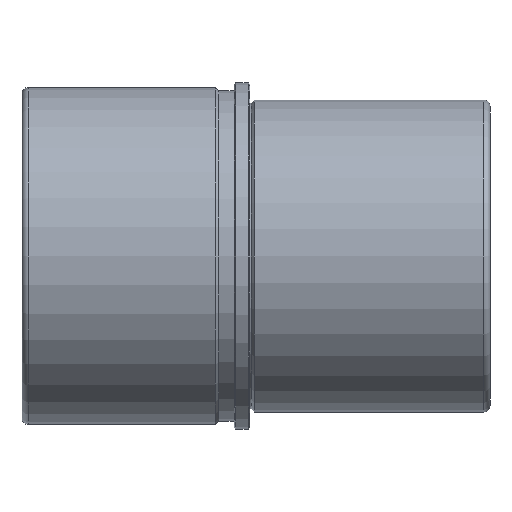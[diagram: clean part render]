
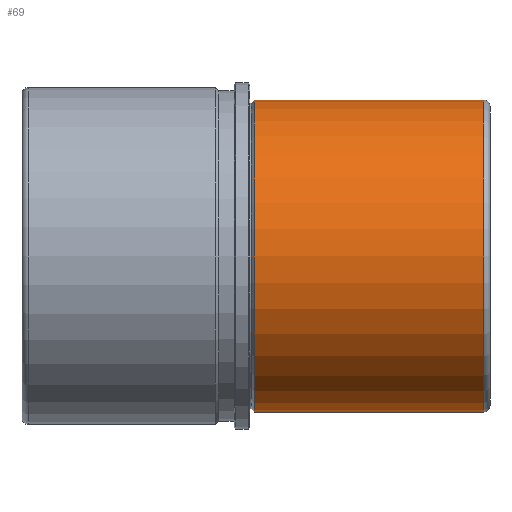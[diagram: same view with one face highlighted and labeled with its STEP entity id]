
A CAD part, front view. The second image highlights one B-rep face of the part: STEP entity #69.
In plain terms, the highlighted cylindrical face has radius 50 mm (diameter 100 mm), a full revolution.
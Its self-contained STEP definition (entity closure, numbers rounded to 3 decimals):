
#69 = ADVANCED_FACE( '', ( #154, #155 ), #156, .T. );
#154 = FACE_OUTER_BOUND( '', #247, .T. );
#155 = FACE_OUTER_BOUND( '', #248, .T. );
#156 = CYLINDRICAL_SURFACE( '', #249, 50. );
#247 = EDGE_LOOP( '', ( #358 ) );
#248 = EDGE_LOOP( '', ( #359 ) );
#249 = AXIS2_PLACEMENT_3D( '', #360, #361, #362 );
#358 = ORIENTED_EDGE( '', *, *, #441, .T. );
#359 = ORIENTED_EDGE( '', *, *, #442, .F. );
#360 = CARTESIAN_POINT( '', ( 77., 0., 0. ) );
#361 = DIRECTION( '', ( -1., 0., 0. ) );
#362 = DIRECTION( '', ( 0., 0., -1. ) );
#441 = EDGE_CURVE( '', #501, #501, #502, .T. );
#442 = EDGE_CURVE( '', #503, #503, #504, .T. );
#501 = VERTEX_POINT( '', #696 );
#502 = CIRCLE( '', #697, 50. );
#503 = VERTEX_POINT( '', #698 );
#504 = CIRCLE( '', #699, 50. );
#696 = CARTESIAN_POINT( '', ( 1.414, 0., -50. ) );
#697 = AXIS2_PLACEMENT_3D( '', #759, #760, #761 );
#698 = CARTESIAN_POINT( '', ( 75., 0., -50. ) );
#699 = AXIS2_PLACEMENT_3D( '', #762, #763, #764 );
#759 = CARTESIAN_POINT( '', ( 1.414, 0., 0. ) );
#760 = DIRECTION( '', ( 1., 0., 0. ) );
#761 = DIRECTION( '', ( 0., 0., -1. ) );
#762 = CARTESIAN_POINT( '', ( 75., 0., 0. ) );
#763 = DIRECTION( '', ( 1., 0., 0. ) );
#764 = DIRECTION( '', ( 0., 0., -1. ) );
